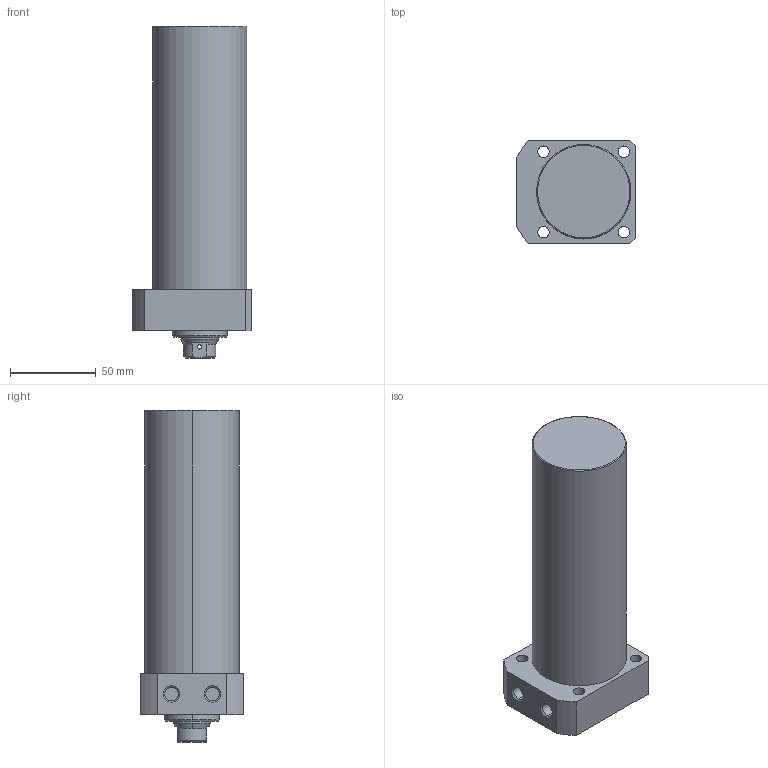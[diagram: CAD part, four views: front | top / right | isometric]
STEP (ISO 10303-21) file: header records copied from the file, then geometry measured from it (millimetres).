
FILE_DESCRIPTION (( 'STEP AP203' ), '1' );
FILE_NAME ('CLLR-055CB-125.STEP', '2019-12-17T11:57:25', ( '' ), ( '' ), 'SwSTEP 2.0', 'SolidWorks 2015', '' );
FILE_SCHEMA (( 'CONFIG_CONTROL_DESIGN' ));
Length unit declared in the file: millimetre
Products named in the file (1): CLLR-055CB-125
Bounding box: 69 x 60 x 194 mm (x, y, z)
Volume: 463463 mm3; surface area: 44944.8 mm2
Topology: 1 solids, 1 shells, 69 faces, 162 edges, 101 vertices
Faces by surface type: cylinder 33, plane 19, cone 15, torus 2
Entity records: 2175 total; most frequent: CARTESIAN_POINT 451, DIRECTION 368, ORIENTED_EDGE 320, EDGE_CURVE 160, AXIS2_PLACEMENT_3D 150, VERTEX_POINT 101, EDGE_LOOP 89, CIRCLE 80
